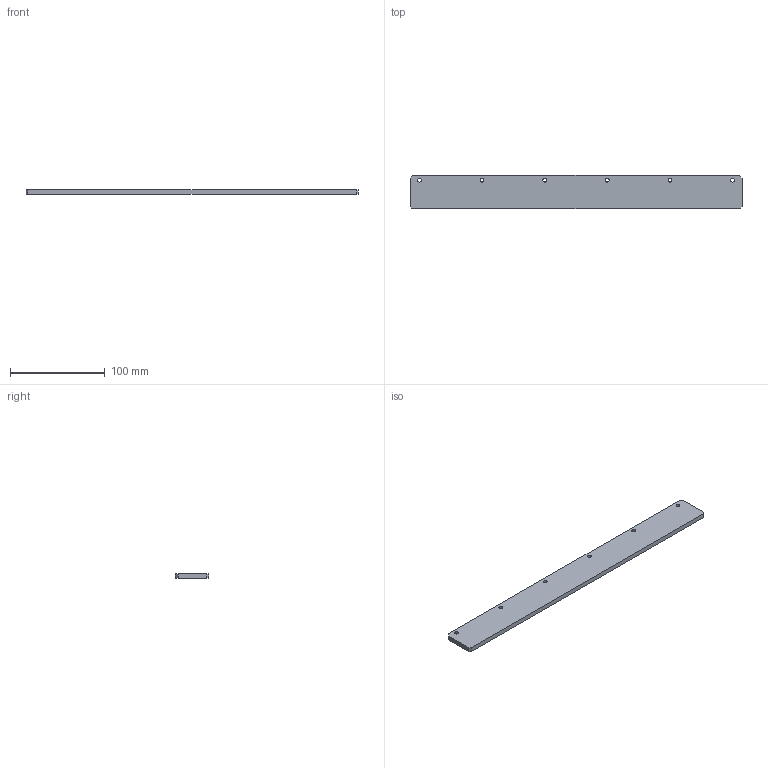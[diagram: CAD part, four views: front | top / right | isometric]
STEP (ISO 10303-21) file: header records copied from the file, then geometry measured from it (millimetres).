
FILE_DESCRIPTION(/* description */ (''),/* implementation_level */ '2;1');
FILE_NAME(/* name */ 'C:/#Projekte/Linear-Motor/STEP/steel_plate_top.step',/* time_stamp */ '2019-01-06T11:26:52+01:00',/* author */ (''),/* organization */ (''),/* preprocessor_version */ 'ST-DEVELOPER v17.2',/* originating_system */ 'Autodesk Translation Framework v7.6.0.251',/* authorisation */ '');
FILE_SCHEMA (('AUTOMOTIVE_DESIGN { 1 0 10303 214 3 1 1 }'));
Length unit declared in the file: millimetre
Products named in the file (1): Unterer Magnethalter (1)
Bounding box: 350 x 35 x 5 mm (x, y, z)
Volume: 60808 mm3; surface area: 28520.9 mm2
Topology: 1 solids, 1 shells, 16 faces, 42 edges, 28 vertices
Faces by surface type: plane 10, cylinder 6
Full cylindrical faces by diameter (mm): 4 x6
Entity records: 555 total; most frequent: DIRECTION 88, CARTESIAN_POINT 87, ORIENTED_EDGE 84, EDGE_CURVE 42, LINE 30, VECTOR 30, AXIS2_PLACEMENT_3D 29, EDGE_LOOP 28
